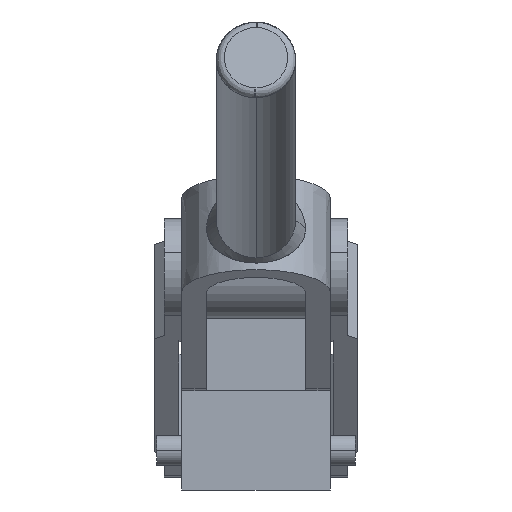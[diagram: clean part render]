
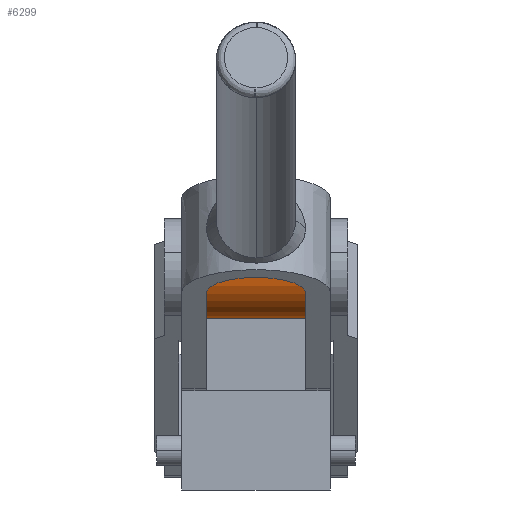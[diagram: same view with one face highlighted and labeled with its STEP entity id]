
A CAD part, left-side view. The second image highlights one B-rep face of the part: STEP entity #6299.
In plain terms, the highlighted cylindrical face has radius 9.525 mm (diameter 19.05 mm), a partial arc.
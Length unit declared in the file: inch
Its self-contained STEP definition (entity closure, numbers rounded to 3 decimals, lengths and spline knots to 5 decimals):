
#6299 = ADVANCED_FACE( '', ( #6587 ), #6588, .T. );
#6587 = FACE_OUTER_BOUND( '', #7129, .T. );
#6588 = CYLINDRICAL_SURFACE( '', #7130, 0.375 );
#7129 = EDGE_LOOP( '', ( #8066, #8067, #8068, #8069 ) );
#7130 = AXIS2_PLACEMENT_3D( '', #8070, #8071, #8072 );
#8066 = ORIENTED_EDGE( '', *, *, #8687, .T. );
#8067 = ORIENTED_EDGE( '', *, *, #8691, .F. );
#8068 = ORIENTED_EDGE( '', *, *, #8689, .T. );
#8069 = ORIENTED_EDGE( '', *, *, #8692, .F. );
#8070 = CARTESIAN_POINT( '', ( -4.72534, 0., 1.67041 ) );
#8071 = DIRECTION( '', ( 0., 1., 0. ) );
#8072 = DIRECTION( '', ( 1., 0., 0. ) );
#8687 = EDGE_CURVE( '', #9901, #9902, #9903, .T. );
#8689 = EDGE_CURVE( '', #9906, #9904, #9907, .T. );
#8691 = EDGE_CURVE( '', #9906, #9902, #9909, .T. );
#8692 = EDGE_CURVE( '', #9901, #9904, #9910, .T. );
#9901 = VERTEX_POINT( '', #11555 );
#9902 = VERTEX_POINT( '', #11556 );
#9903 = LINE( '', #11557, #11558 );
#9904 = VERTEX_POINT( '', #11559 );
#9906 = VERTEX_POINT( '', #11561 );
#9907 = LINE( '', #11562, #11563 );
#9909 = CIRCLE( '', #11565, 0.375 );
#9910 = CIRCLE( '', #11566, 0.375 );
#11555 = CARTESIAN_POINT( '', ( -4.35034, 0.375, 1.67041 ) );
#11556 = CARTESIAN_POINT( '', ( -4.35034, -0.375, 1.67041 ) );
#11557 = CARTESIAN_POINT( '', ( -4.35034, 0., 1.67041 ) );
#11558 = VECTOR( '', #12639, 1. );
#11559 = CARTESIAN_POINT( '', ( -5.10034, 0.375, 1.67041 ) );
#11561 = CARTESIAN_POINT( '', ( -5.10034, -0.375, 1.67041 ) );
#11562 = CARTESIAN_POINT( '', ( -5.10034, 0., 1.67041 ) );
#11563 = VECTOR( '', #12643, 1. );
#11565 = AXIS2_PLACEMENT_3D( '', #12647, #12648, #12649 );
#11566 = AXIS2_PLACEMENT_3D( '', #12650, #12651, #12652 );
#12639 = DIRECTION( '', ( 0., -1., 0. ) );
#12643 = DIRECTION( '', ( 0., 1., 0. ) );
#12647 = CARTESIAN_POINT( '', ( -4.72534, -0.375, 1.67041 ) );
#12648 = DIRECTION( '', ( 0., -1., 0. ) );
#12649 = DIRECTION( '', ( 1., 0., 0. ) );
#12650 = CARTESIAN_POINT( '', ( -4.72534, 0.375, 1.67041 ) );
#12651 = DIRECTION( '', ( 0., 1., 0. ) );
#12652 = DIRECTION( '', ( 1., 0., 0. ) );
